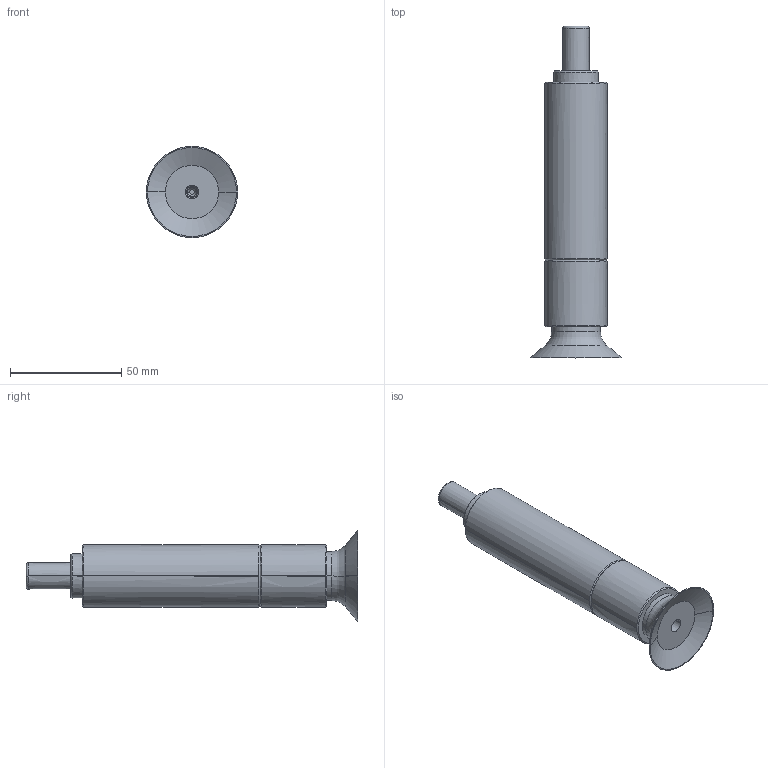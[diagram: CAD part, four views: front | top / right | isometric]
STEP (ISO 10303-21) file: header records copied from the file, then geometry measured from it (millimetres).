
FILE_DESCRIPTION((''),'2;1');
FILE_NAME('3D-NDGPAK40','2014-01-18T',('yfs-01'),('foxconn'),'PRO/ENGINEER BY PARAMETRIC TECHNOLOGY CORPORATION, 2007230','PRO/ENGINEER BY PARAMETRIC TECHNOLOGY CORPORATION, 2007230','');
FILE_SCHEMA(('CONFIG_CONTROL_DESIGN'));
Length unit declared in the file: millimetre
Products named in the file (1): 3D-NDGPAK40
Bounding box: 41 x 149.2 x 41 mm (x, y, z)
Surface area: 22341 mm2 (no closed solid volume)
Topology: 0 solids, 0 shells, 81 faces, 324 edges, 322 vertices
Faces by surface type: bspline 77, torus 4
Entity records: 8938 total; most frequent: CARTESIAN_POINT 5806, DIRECTION 530, TRIMMED_CURVE 424, VECTOR 326, LINE 326, DEFINITIONAL_REPRESENTATION 320, PCURVE 320, COMPOSITE_CURVE_SEGMENT 320
